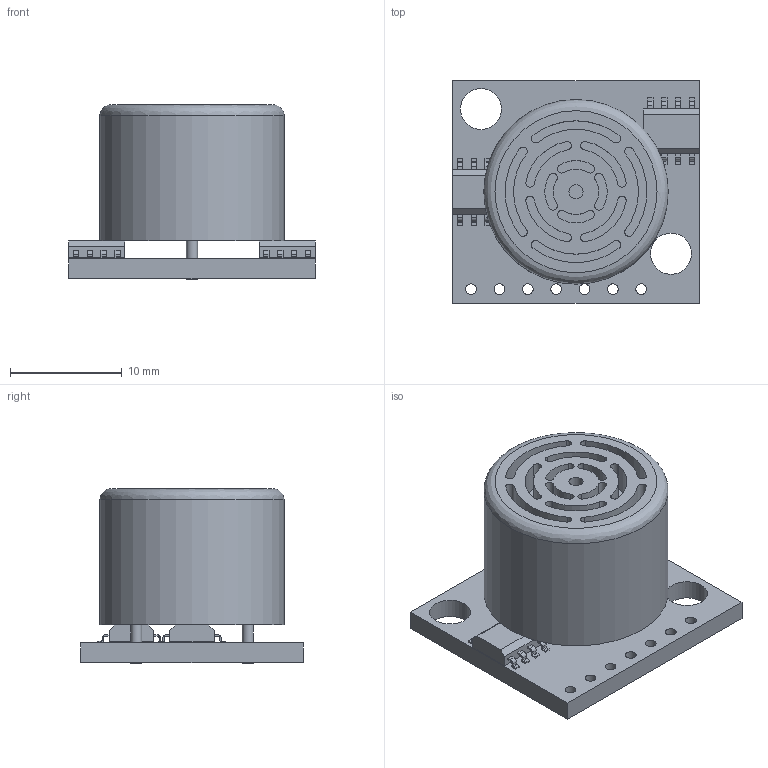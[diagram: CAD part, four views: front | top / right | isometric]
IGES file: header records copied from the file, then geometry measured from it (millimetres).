
Global section: file name: No Iges File Name specified; native system: AutoDesk Inventor R6.0; preprocessor: AutoDesk Inventor Iges Exporter R6.0; author: No Author specified; organization: No Organization specified; date: 20080102.165717; units: inch
Bounding box: 22.1 x 19.94 x 15.62 mm (x, y, z)
Surface area: 2677.7 mm2 (no closed solid volume)
Topology: 0 solids, 0 shells, 311 faces, 1625 edges, 1609 vertices
Faces by surface type: bspline 119, plane 109, revolution 83
